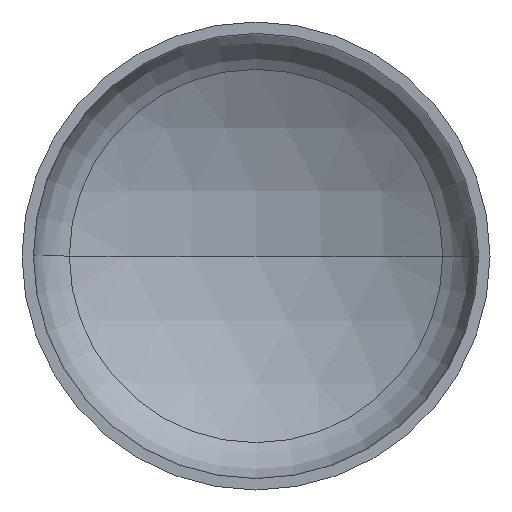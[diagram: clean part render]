
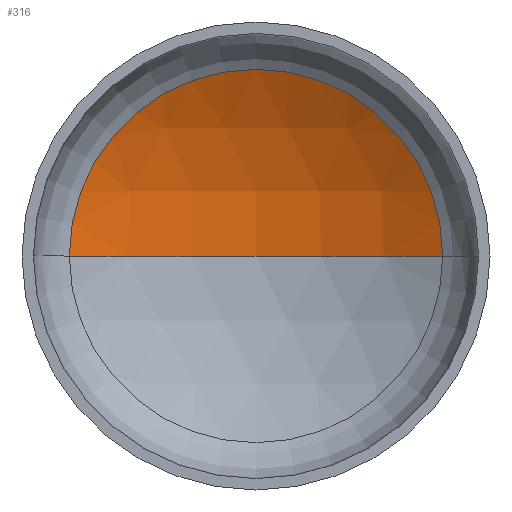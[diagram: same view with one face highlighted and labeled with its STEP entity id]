
A CAD part, front view. The second image highlights one B-rep face of the part: STEP entity #316.
In plain terms, the highlighted spherical face has radius 2560 mm.
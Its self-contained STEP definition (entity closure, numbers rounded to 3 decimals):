
#3 = CIRCLE ( 'NONE', #21, 2560. ) ;
#7 = AXIS2_PLACEMENT_3D ( 'NONE', #136, #62, #155 ) ;
#20 = AXIS2_PLACEMENT_3D ( 'NONE', #217, #275, #31 ) ;
#21 = AXIS2_PLACEMENT_3D ( 'NONE', #181, #183, #93 ) ;
#24 = AXIS2_PLACEMENT_3D ( 'NONE', #210, #197, #192 ) ;
#25 = EDGE_LOOP ( 'NONE', ( #118, #109, #50 ) ) ;
#31 = DIRECTION ( 'NONE',  ( 1., 0., 0. ) ) ;
#50 = ORIENTED_EDGE ( 'NONE', *, *, #85, .T. ) ;
#59 = VERTEX_POINT ( 'NONE', #352 ) ;
#62 = DIRECTION ( 'NONE',  ( 0., 0., -1. ) ) ;
#85 = EDGE_CURVE ( 'NONE', #186, #59, #168, .T. ) ;
#88 = EDGE_CURVE ( 'NONE', #123, #186, #3, .T. ) ;
#91 = EDGE_CURVE ( 'NONE', #123, #59, #356, .T. ) ;
#93 = DIRECTION ( 'NONE',  ( -1., 0., 0. ) ) ;
#109 = ORIENTED_EDGE ( 'NONE', *, *, #88, .T. ) ;
#118 = ORIENTED_EDGE ( 'NONE', *, *, #91, .F. ) ;
#123 = VERTEX_POINT ( 'NONE', #221 ) ;
#136 = CARTESIAN_POINT ( 'NONE',  ( 0., -1674.401, 0. ) ) ;
#138 = FACE_OUTER_BOUND ( 'NONE', #25, .T. ) ;
#147 = SPHERICAL_SURFACE ( 'NONE', #7, 2560. ) ;
#155 = DIRECTION ( 'NONE',  ( -1., 0., 0. ) ) ;
#168 = CIRCLE ( 'NONE', #24, 1276.29 ) ;
#181 = CARTESIAN_POINT ( 'NONE',  ( 0., -1674.401, 0. ) ) ;
#183 = DIRECTION ( 'NONE',  ( 0., 0., -1. ) ) ;
#186 = VERTEX_POINT ( 'NONE', #241 ) ;
#192 = DIRECTION ( 'NONE',  ( 1., 0., 0. ) ) ;
#197 = DIRECTION ( 'NONE',  ( 0., -1., 0. ) ) ;
#210 = CARTESIAN_POINT ( 'NONE',  ( 0., 544.762, 0. ) ) ;
#217 = CARTESIAN_POINT ( 'NONE',  ( 0., -1674.401, 0. ) ) ;
#221 = CARTESIAN_POINT ( 'NONE',  ( 0., 885.599, 0. ) ) ;
#241 = CARTESIAN_POINT ( 'NONE',  ( 1276.29, 544.762, 0. ) ) ;
#275 = DIRECTION ( 'NONE',  ( 0., 0., 1. ) ) ;
#316 = ADVANCED_FACE ( 'NONE', ( #138 ), #147, .F. ) ;
#352 = CARTESIAN_POINT ( 'NONE',  ( -1276.29, 544.762, 0. ) ) ;
#356 = CIRCLE ( 'NONE', #20, 2560. ) ;
